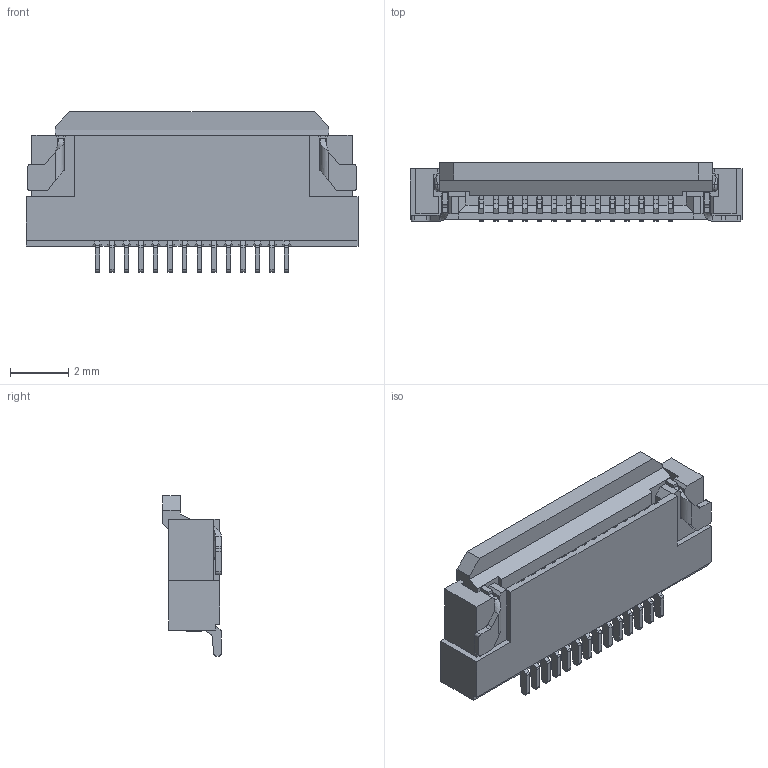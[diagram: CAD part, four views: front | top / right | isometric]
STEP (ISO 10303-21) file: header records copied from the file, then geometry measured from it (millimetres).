
FILE_DESCRIPTION((''),'2;1');
FILE_NAME('E-51502-060XX-001_ASM','2012-06-27T',('12114032'),(''),'PRO/ENGINEER BY PARAMETRIC TECHNOLOGY CORPORATION, 2009360','PRO/ENGINEER BY PARAMETRIC TECHNOLOGY CORPORATION, 2009360','');
FILE_SCHEMA(('CONFIG_CONTROL_DESIGN'));
Length unit declared in the file: millimetre
Products named in the file (1): E-51502-060XX-001_ASM
Bounding box: 11.4 x 2 x 5.51 mm (x, y, z)
Volume: 55.5 mm3; surface area: 403.3 mm2
Topology: 2 solids, 2 shells, 1091 faces, 3922 edges, 2739 vertices
Faces by surface type: plane 727, cylinder 354, bspline 6, torus 4
Entity records: 43300 total; most frequent: CARTESIAN_POINT 8156, ORIENTED_EDGE 7844, DIRECTION 7306, EDGE_CURVE 3922, VERTEX_POINT 2739, VECTOR 2648, LINE 2648, AXIS2_PLACEMENT_3D 2329
